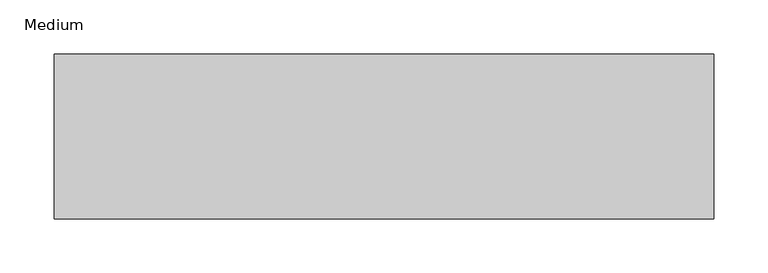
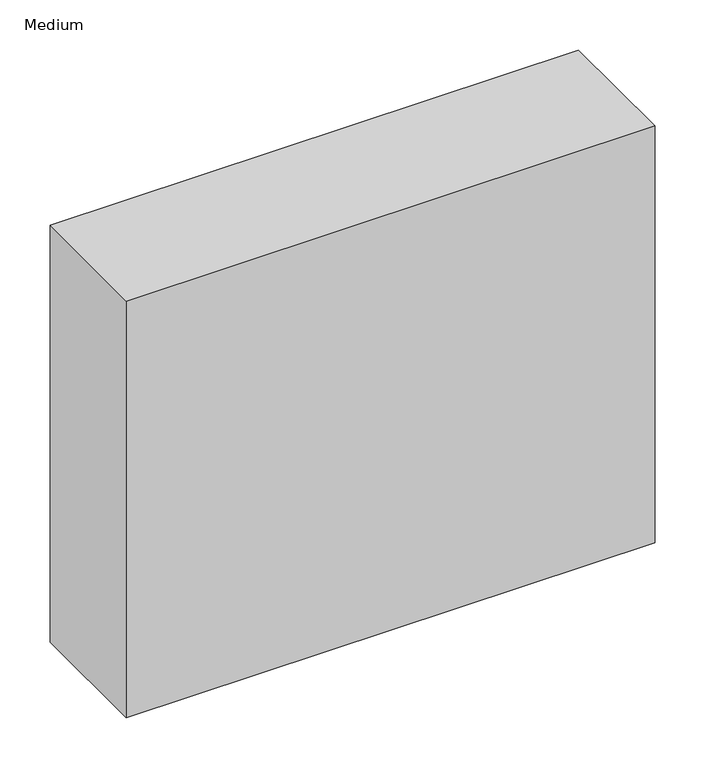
"""IFC4 building model written with IfcOpenShell, lengths in millimetres: proxy geometry, Power Inverter : Medium."""

from ifc_helpers import new_model, si_unit, origin, origin_with_axes, place, context, project, spatial, polyline, outline, extrude, source, transform, mapped, element, save


def medium_2074314f(model_context):
    return source(origin(), model_context, "Body", "SweptSolid", [
        extrude(outline(polyline([(304.8, 76.2), (304.8, -76.2), (-304.8, -76.2), (-304.8, 76.2), (304.8, 76.2)])), origin_with_axes(), (0.0, 0.0, 1.0), 508.0),
    ])


if __name__ == "__main__":
    model = new_model("IFC4")
    model_context = context("Model", 3, world=origin())
    ifc_project = project(units=[si_unit("LENGTHUNIT", "METRE", prefix="MILLI")], contexts=[model_context])
    site = spatial("IfcSite", under=ifc_project)
    building = spatial("IfcBuilding", under=site)
    placement = place(None, origin())
    medium_shape = medium_2074314f(model_context)
    element("IfcBuildingElementProxy", 1, Name="Power Inverter : Medium", ObjectType="Power Inverter : Medium", at=placement, inside=building, context=model_context, shape_type="MappedRepresentation", body=[
        mapped(medium_shape, transform((0.0, 0.0, 0.0), x_axis=(1.0, 0.0, 0.0), y_axis=(0.0, 1.0, 0.0), z_axis=(0.0, 0.0, 1.0))),
    ])
    save(model, "model.ifc")
